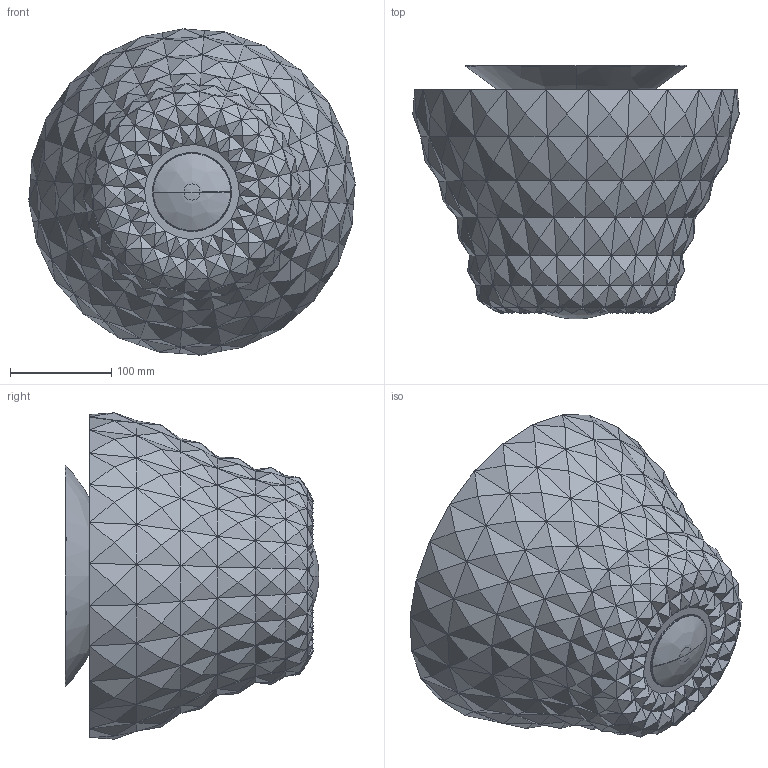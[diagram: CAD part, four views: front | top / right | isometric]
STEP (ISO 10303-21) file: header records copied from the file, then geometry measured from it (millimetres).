
FILE_DESCRIPTION (( 'STEP AP203' ), '1' );
FILE_NAME ('ATELIER PL_STEP.STEP', '2015-12-21T11:10:29', ( 'admin' ), ( '' ), 'SwSTEP 2.0', 'SolidWorks 2015', '' );
FILE_SCHEMA (( 'CONFIG_CONTROL_DESIGN' ));
Length unit declared in the file: millimetre
Products named in the file (2): ATELIER PL_STEP
Bounding box: 322.65 x 250.86 x 322.65 mm (x, y, z)
Volume: 1913354.6 mm3; surface area: 536044.8 mm2
Topology: 6 solids, 6 shells, 892 faces, 1464 edges, 589 vertices
Faces by surface type: plane 799, cylinder 45, bspline 28, cone 20
Entity records: 20473 total; most frequent: CARTESIAN_POINT 4835, DIRECTION 3230, ORIENTED_EDGE 2924, EDGE_CURVE 1462, LINE 1266, VECTOR 1266, AXIS2_PLACEMENT_3D 982, EDGE_LOOP 917
